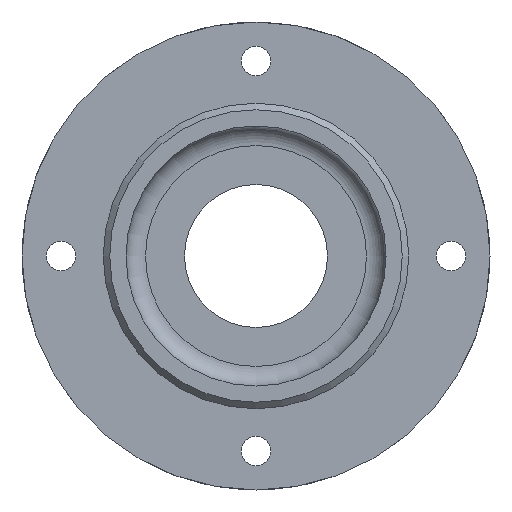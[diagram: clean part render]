
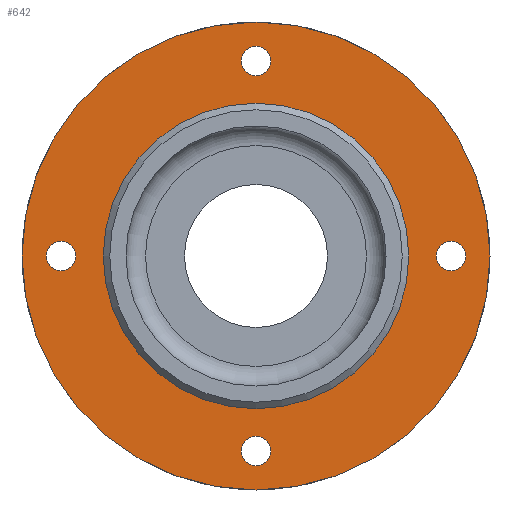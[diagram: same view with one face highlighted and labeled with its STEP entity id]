
A CAD part, left-side view. The second image highlights one B-rep face of the part: STEP entity #642.
In plain terms, the highlighted planar face has unit normal (-1, 0, 0).
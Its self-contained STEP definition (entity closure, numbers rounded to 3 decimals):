
#96=FACE_BOUND('',#178,.T.);
#97=FACE_BOUND('',#179,.T.);
#98=FACE_BOUND('',#180,.T.);
#99=FACE_BOUND('',#181,.T.);
#100=FACE_BOUND('',#182,.T.);
#133=FACE_OUTER_BOUND('',#177,.T.);
#177=EDGE_LOOP('',(#571));
#178=EDGE_LOOP('',(#572));
#179=EDGE_LOOP('',(#573));
#180=EDGE_LOOP('',(#574));
#181=EDGE_LOOP('',(#575));
#182=EDGE_LOOP('',(#576));
#194=CIRCLE('',#679,2.25);
#200=CIRCLE('',#688,2.25);
#206=CIRCLE('',#697,2.25);
#228=CIRCLE('',#730,2.25);
#233=CIRCLE('',#738,23.5);
#246=CIRCLE('',#760,36.);
#259=VERTEX_POINT('',#1038);
#270=VERTEX_POINT('',#1098);
#281=VERTEX_POINT('',#1160);
#295=VERTEX_POINT('',#1246);
#300=VERTEX_POINT('',#1261);
#311=VERTEX_POINT('',#1299);
#324=EDGE_CURVE('',#259,#259,#194,.T.);
#337=EDGE_CURVE('',#270,#270,#200,.T.);
#350=EDGE_CURVE('',#281,#281,#206,.T.);
#379=EDGE_CURVE('',#295,#295,#228,.T.);
#385=EDGE_CURVE('',#300,#300,#233,.T.);
#403=EDGE_CURVE('',#311,#311,#246,.T.);
#571=ORIENTED_EDGE('',*,*,#403,.F.);
#572=ORIENTED_EDGE('',*,*,#324,.T.);
#573=ORIENTED_EDGE('',*,*,#337,.T.);
#574=ORIENTED_EDGE('',*,*,#350,.T.);
#575=ORIENTED_EDGE('',*,*,#379,.T.);
#576=ORIENTED_EDGE('',*,*,#385,.T.);
#608=PLANE('',#759);
#642=ADVANCED_FACE('',(#133,#96,#97,#98,#99,#100),#608,.T.);
#679=AXIS2_PLACEMENT_3D('',#1040,#789,#790);
#688=AXIS2_PLACEMENT_3D('',#1100,#809,#810);
#697=AXIS2_PLACEMENT_3D('',#1162,#829,#830);
#730=AXIS2_PLACEMENT_3D('',#1248,#898,#899);
#738=AXIS2_PLACEMENT_3D('',#1262,#915,#916);
#759=AXIS2_PLACEMENT_3D('',#1298,#962,#963);
#760=AXIS2_PLACEMENT_3D('',#1300,#964,#965);
#789=DIRECTION('center_axis',(1.,0.,0.));
#790=DIRECTION('ref_axis',(0.,-1.,0.));
#809=DIRECTION('center_axis',(1.,0.,0.));
#810=DIRECTION('ref_axis',(0.,0.,1.));
#829=DIRECTION('center_axis',(1.,0.,0.));
#830=DIRECTION('ref_axis',(0.,1.,0.));
#898=DIRECTION('center_axis',(1.,0.,0.));
#899=DIRECTION('ref_axis',(0.,0.,-1.));
#915=DIRECTION('center_axis',(1.,0.,0.));
#916=DIRECTION('ref_axis',(0.,0.,-1.));
#962=DIRECTION('center_axis',(-1.,0.,0.));
#963=DIRECTION('ref_axis',(0.,0.,1.));
#964=DIRECTION('center_axis',(1.,0.,0.));
#965=DIRECTION('ref_axis',(0.,0.,-1.));
#1038=CARTESIAN_POINT('',(4.,2.25,-30.));
#1040=CARTESIAN_POINT('Origin',(4.,0.,-30.));
#1098=CARTESIAN_POINT('',(4.,-30.,-2.25));
#1100=CARTESIAN_POINT('Origin',(4.,-30.,0.));
#1160=CARTESIAN_POINT('',(4.,-2.25,30.));
#1162=CARTESIAN_POINT('Origin',(4.,0.,30.));
#1246=CARTESIAN_POINT('',(4.,30.,2.25));
#1248=CARTESIAN_POINT('Origin',(4.,30.,0.));
#1261=CARTESIAN_POINT('',(4.,-23.5,0.));
#1262=CARTESIAN_POINT('Origin',(4.,0.,0.));
#1298=CARTESIAN_POINT('Origin',(4.,36.,0.));
#1299=CARTESIAN_POINT('',(4.,-36.,0.));
#1300=CARTESIAN_POINT('Origin',(4.,0.,0.));
